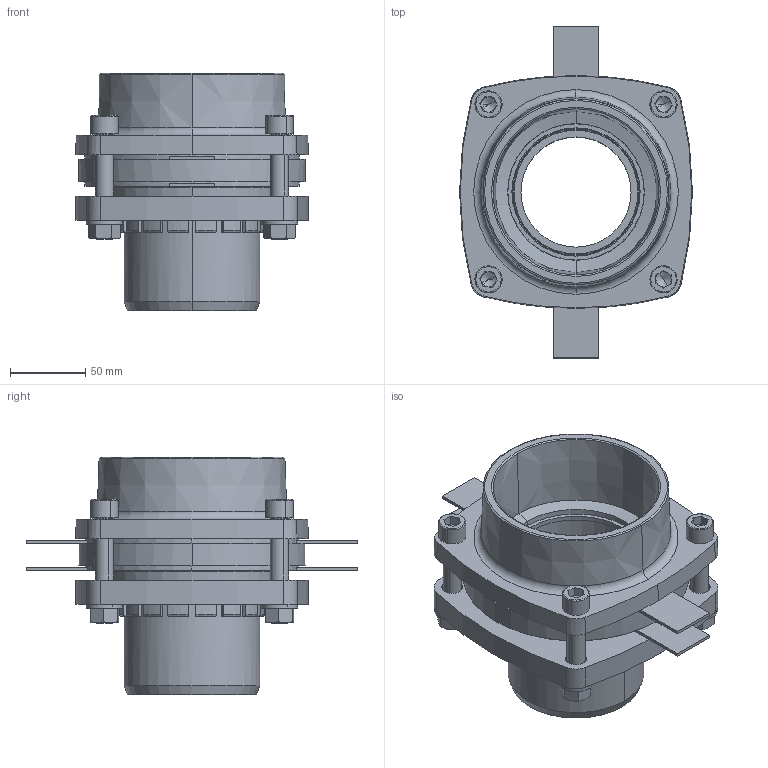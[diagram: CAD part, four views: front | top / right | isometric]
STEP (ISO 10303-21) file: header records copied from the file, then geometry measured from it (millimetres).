
FILE_DESCRIPTION (( 'STEP AP203' ), '1' );
FILE_NAME ('KP_C13-90-110F.step', '2011-08-08T12:02:40', ( '' ), ( '' ), 'SwSTEP 2.0', 'SolidWorks 2011', '' );
FILE_SCHEMA (( 'CONFIG_CONTROL_DESIGN' ));
Length unit declared in the file: millimetre
Products named in the file (1): KP_C13-90-110F
Bounding box: 154.3 x 220 x 157.5 mm (x, y, z)
Volume: 1017244.6 mm3; surface area: 217769 mm2
Topology: 1 solids, 2 shells, 515 faces, 1348 edges, 835 vertices
Faces by surface type: plane 231, cone 122, cylinder 122, torus 40
Entity records: 16145 total; most frequent: CARTESIAN_POINT 2963, DIRECTION 2936, ORIENTED_EDGE 2680, EDGE_CURVE 1340, AXIS2_PLACEMENT_3D 1128, VERTEX_POINT 835, VECTOR 680, LINE 680
